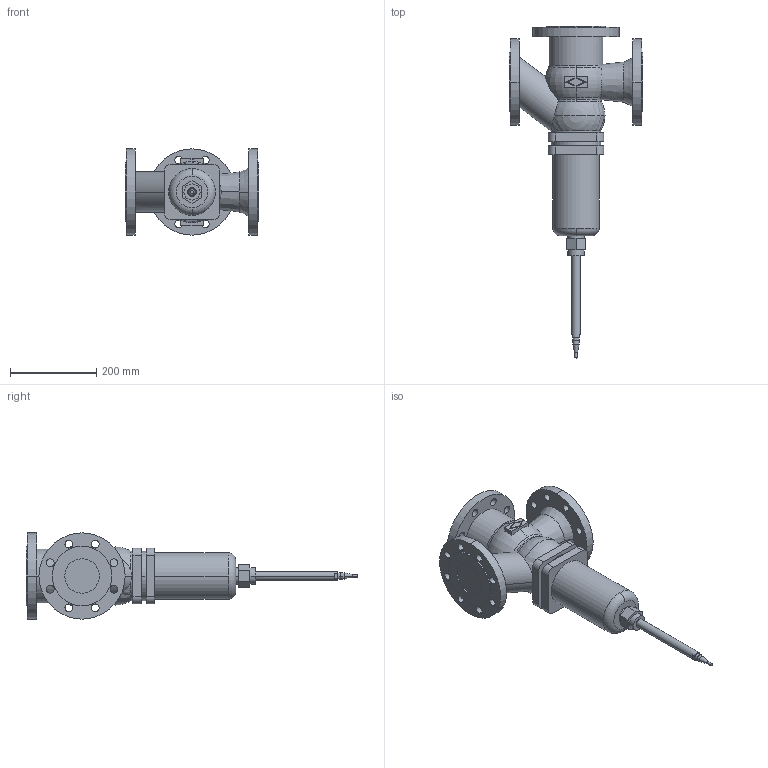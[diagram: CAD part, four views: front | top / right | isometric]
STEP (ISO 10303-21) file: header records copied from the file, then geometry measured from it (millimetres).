
FILE_DESCRIPTION( ( '' ), '1' );
FILE_NAME( 'F:/DE-SHS/TB/OR/04-Sonstiges/daten/files_3d/773-Mischventil/773-Mischventil_PN40/c000006184.stp', '2016-04-11T09:10:53', ( '' ), ( '' ), ' ', ' ', ' ' );
FILE_SCHEMA( ( 'CONFIG_CONTROL_DESIGN' ) );
Length unit declared in the file: millimetre
Products named in the file (1): 1
Bounding box: 310 x 770.06 x 200 mm (x, y, z)
Volume: 8585871 mm3; surface area: 488327.7 mm2
Topology: 1 solids, 1 shells, 176 faces, 457 edges, 299 vertices
Faces by surface type: cylinder 94, plane 60, torus 14, cone 6, sphere 2
Entity records: 6000 total; most frequent: CARTESIAN_POINT 1373, DIRECTION 1022, ORIENTED_EDGE 906, EDGE_CURVE 453, AXIS2_PLACEMENT_3D 416, VERTEX_POINT 299, EDGE_LOOP 244, CIRCLE 237
